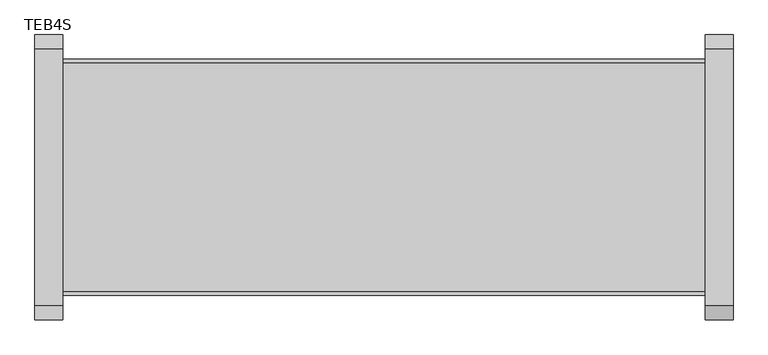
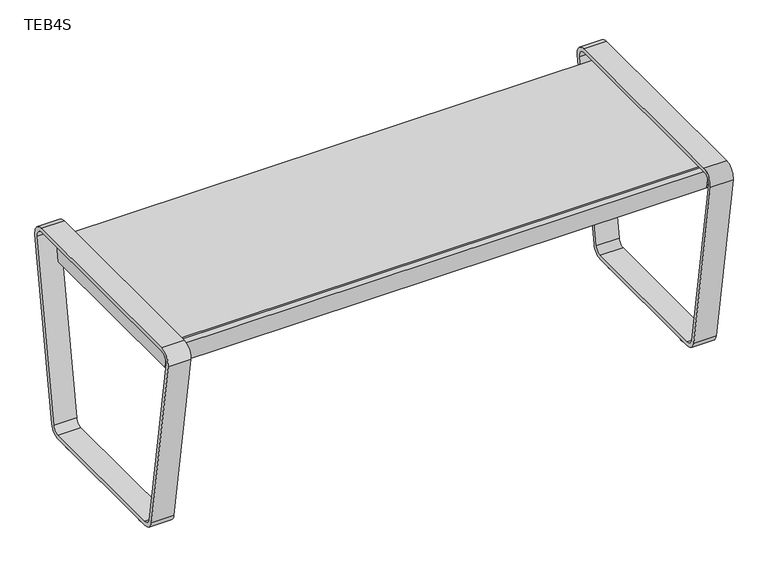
"""IFC4 building model written with IfcOpenShell, lengths in millimetres: furniture geometry, Stance_HC-Terrace-Straight_Bench_Steel : TEB4S."""

from ifc_helpers import new_model, si_unit, point, frame, frame_2d, origin, origin_with_axes, place, context, project, spatial, polyline, circle_curve, trimmed, segment, composite_curve, outline, extrude, source, transform, mapped, element, save


def teb4s_c4fabae1(model_context):
    return source(origin(), model_context, "Body", "SweptSolid", [
        extrude(outline(polyline([(880.26875, -50.90414), (880.26875, -467.25586), (791.36875, -467.25586), (791.36875, -50.90414), (880.26875, -50.90414)])), frame((0.0, 0.0, 432.435), z_axis=(0.0, 0.0, 1.0), x_axis=(1.0, 0.0, 0.0)), (0.0, 0.0, 1.0), 3.175),
        extrude(outline(composite_curve([segment(polyline([(-467.25586, 432.435), (-50.90414, 432.435), (-57.0623598, 397.51)]), True, "CONTINUOUS"), segment(trimmed(circle_curve(frame_2d((-259.08, 1997.8972816)), 1613.0872816), [point((-57.0623598, 397.51))], [point((-461.0976402, 397.51))], False, "CARTESIAN"), True, "CONTINUOUS"), segment(polyline([(-461.0976402, 397.51), (-467.25586, 432.435)]), True, "CONTINUOUS")], self_intersect=False)), frame((833.43115, 0.0, 0.0), z_axis=(1.0, 0.0, 0.0), x_axis=(0.0, 1.0, 0.0)), (0.0, 0.0, 1.0), 4.7752),
        extrude(outline(polyline([(677.8625, -50.90414), (677.8625, -467.25586), (588.9625, -467.25586), (588.9625, -50.90414), (677.8625, -50.90414)])), frame((0.0, 0.0, 432.435), z_axis=(0.0, 0.0, 1.0), x_axis=(1.0, 0.0, 0.0)), (0.0, 0.0, 1.0), 3.175),
        extrude(outline(composite_curve([segment(polyline([(-467.25586, 432.435), (-50.90414, 432.435), (-57.0623598, 397.51)]), True, "CONTINUOUS"), segment(trimmed(circle_curve(frame_2d((-259.08, 1997.8972816)), 1613.0872816), [point((-57.0623598, 397.51))], [point((-461.0976402, 397.51))], False, "CARTESIAN"), True, "CONTINUOUS"), segment(polyline([(-461.0976402, 397.51), (-467.25586, 432.435)]), True, "CONTINUOUS")], self_intersect=False)), frame((631.0249, 0.0, 0.0), z_axis=(1.0, 0.0, 0.0), x_axis=(0.0, 1.0, 0.0)), (0.0, 0.0, 1.0), 4.7752),
        extrude(outline(polyline([(475.45625, -50.90414), (475.45625, -467.25586), (386.55625, -467.25586), (386.55625, -50.90414), (475.45625, -50.90414)])), frame((0.0, 0.0, 432.435), z_axis=(0.0, 0.0, 1.0), x_axis=(1.0, 0.0, 0.0)), (0.0, 0.0, 1.0), 3.175),
        extrude(outline(composite_curve([segment(polyline([(-467.25586, 432.435), (-50.90414, 432.435), (-57.0623598, 397.51)]), True, "CONTINUOUS"), segment(trimmed(circle_curve(frame_2d((-259.08, 1997.8972816)), 1613.0872816), [point((-57.0623598, 397.51))], [point((-461.0976402, 397.51))], False, "CARTESIAN"), True, "CONTINUOUS"), segment(polyline([(-461.0976402, 397.51), (-467.25586, 432.435)]), True, "CONTINUOUS")], self_intersect=False)), frame((428.61865, 0.0, 0.0), z_axis=(1.0, 0.0, 0.0), x_axis=(0.0, 1.0, 0.0)), (0.0, 0.0, 1.0), 4.7752),
        extrude(outline(polyline([(1082.675, -50.90414), (1082.675, -467.25586), (993.775, -467.25586), (993.775, -50.90414), (1082.675, -50.90414)])), frame((0.0, 0.0, 432.435), z_axis=(0.0, 0.0, 1.0), x_axis=(1.0, 0.0, 0.0)), (0.0, 0.0, 1.0), 3.175),
        extrude(outline(composite_curve([segment(polyline([(-467.25586, 432.435), (-50.90414, 432.435), (-57.0623598, 397.51)]), True, "CONTINUOUS"), segment(trimmed(circle_curve(frame_2d((-259.08, 1997.8972816)), 1613.0872816), [point((-57.0623598, 397.51))], [point((-461.0976402, 397.51))], False, "CARTESIAN"), True, "CONTINUOUS"), segment(polyline([(-461.0976402, 397.51), (-467.25586, 432.435)]), True, "CONTINUOUS")], self_intersect=False)), frame((1035.8374, 0.0, 0.0), z_axis=(1.0, 0.0, 0.0), x_axis=(0.0, 1.0, 0.0)), (0.0, 0.0, 1.0), 4.7752),
        extrude(outline(polyline([(273.05, -50.90414), (273.05, -467.25586), (184.15, -467.25586), (184.15, -50.90414), (273.05, -50.90414)])), frame((0.0, 0.0, 432.435), z_axis=(0.0, 0.0, 1.0), x_axis=(1.0, 0.0, 0.0)), (0.0, 0.0, 1.0), 3.175),
        extrude(outline(composite_curve([segment(polyline([(-467.25586, 432.435), (-50.90414, 432.435), (-57.0623598, 397.51)]), True, "CONTINUOUS"), segment(trimmed(circle_curve(frame_2d((-259.08, 1997.8972816)), 1613.0872816), [point((-57.0623598, 397.51))], [point((-461.0976402, 397.51))], False, "CARTESIAN"), True, "CONTINUOUS"), segment(polyline([(-461.0976402, 397.51), (-467.25586, 432.435)]), True, "CONTINUOUS")], self_intersect=False)), frame((226.2124, 0.0, 0.0), z_axis=(1.0, 0.0, 0.0), x_axis=(0.0, 1.0, 0.0)), (0.0, 0.0, 1.0), 4.7752),
        extrude(outline(polyline([(-476.5675, 457.8350949), (-41.5925, 457.8350949), (-52.2294419, 397.51), (-465.9305581, 397.51), (-476.5675, 457.8350949)])), frame((1241.425, 0.0, 0.0), z_axis=(1.0, 0.0, 0.0), x_axis=(0.0, 1.0, 0.0)), (0.0, 0.0, 1.0), 6.35),
        extrude(outline(composite_curve([segment(trimmed(circle_curve(frame_2d((1244.6, -399.75536)), 22.225), [point((1266.825, -399.75536))], [point((1222.375, -399.75536))], False, "CARTESIAN"), True, "CONTINUOUS"), segment(trimmed(circle_curve(frame_2d((1244.6, -399.75536)), 22.225), [point((1222.375, -399.75536))], [point((1266.825, -399.75536))], False, "CARTESIAN"), True, "CONTINUOUS")], self_intersect=False)), origin_with_axes(), (0.0, 0.0, 1.0), 6.35),
        extrude(outline(composite_curve([segment(trimmed(circle_curve(frame_2d((1244.6, -118.40464)), 22.225), [point((1266.825, -118.40464))], [point((1222.375, -118.40464))], False, "CARTESIAN"), True, "CONTINUOUS"), segment(trimmed(circle_curve(frame_2d((1244.6, -118.40464)), 22.225), [point((1222.375, -118.40464))], [point((1266.825, -118.40464))], False, "CARTESIAN"), True, "CONTINUOUS")], self_intersect=False)), origin_with_axes(), (0.0, 0.0, 1.0), 6.35),
        extrude(outline(composite_curve([segment(trimmed(circle_curve(frame_2d((-90.0611198, 31.75)), 25.4000949), [point((-64.9737422, 27.7765497))], [point((-90.0611198, 6.3499051))], False, "CARTESIAN"), True, "CONTINUOUS"), segment(polyline([(-90.0611198, 6.3499051), (-428.0988802, 6.3499051)]), True, "CONTINUOUS"), segment(trimmed(circle_curve(frame_2d((-428.0988802, 31.75)), 25.4000949), [point((-428.0988802, 6.3499051))], [point((-453.1862578, 27.7765497))], False, "CARTESIAN"), True, "CONTINUOUS"), segment(polyline([(-453.1862578, 27.7765497), (-518.157139, 437.9865497)]), True, "CONTINUOUS"), segment(trimmed(circle_curve(frame_2d((-493.0697614, 441.96)), 25.4000949), [point((-518.157139, 437.9865497))], [point((-493.0697614, 467.3600949))], False, "CARTESIAN"), True, "CONTINUOUS"), segment(polyline([(-493.0697614, 467.3600949), (-25.0902386, 467.3600949)]), True, "CONTINUOUS"), segment(trimmed(circle_curve(frame_2d((-25.0902386, 441.96)), 25.4000949), [point((-25.0902386, 467.3600949))], [point((-0.002861, 437.9865497))], False, "CARTESIAN"), True, "CONTINUOUS"), segment(polyline([(-0.002861, 437.9865497), (-64.9737422, 27.7765497)]), True, "CONTINUOUS")], self_intersect=False), holes=[composite_curve([segment(trimmed(circle_curve(frame_2d((-493.0697614, 441.96)), 15.8750949), [point((-493.0697614, 457.8350949))], [point((-508.7494076, 439.476588))], True, "CARTESIAN"), True, "CONTINUOUS"), segment(polyline([(-508.7494076, 439.476588), (-443.7785263, 29.266588)]), True, "CONTINUOUS"), segment(trimmed(circle_curve(frame_2d((-428.0988802, 31.75)), 15.8750949), [point((-443.7785263, 29.266588))], [point((-428.0988802, 15.8749051))], True, "CARTESIAN"), True, "CONTINUOUS"), segment(polyline([(-428.0988802, 15.8749051), (-90.0611198, 15.8749051)]), True, "CONTINUOUS"), segment(trimmed(circle_curve(frame_2d((-90.0611198, 31.75)), 15.8750949), [point((-90.0611198, 15.8749051))], [point((-74.3814737, 29.266588))], True, "CARTESIAN"), True, "CONTINUOUS"), segment(polyline([(-74.3814737, 29.266588), (-9.4105924, 439.476588)]), True, "CONTINUOUS"), segment(trimmed(circle_curve(frame_2d((-25.0902386, 441.96)), 15.8750949), [point((-9.4105924, 439.476588))], [point((-25.0902386, 457.8350949))], True, "CARTESIAN"), True, "CONTINUOUS"), segment(polyline([(-25.0902386, 457.8350949), (-493.0697614, 457.8350949)]), True, "CONTINUOUS")], self_intersect=False)]), frame((1219.2, 0.0, 0.0), z_axis=(1.0, 0.0, 0.0), x_axis=(0.0, 1.0, 0.0)), (0.0, 0.0, 1.0), 50.8),
        extrude(outline(polyline([(-476.5675, 457.8350949), (-41.5925, 457.8350949), (-52.2294419, 397.51), (-465.9305581, 397.51), (-476.5675, 457.8350949)])), frame((22.225, 0.0, 0.0), z_axis=(1.0, 0.0, 0.0), x_axis=(0.0, 1.0, 0.0)), (0.0, 0.0, 1.0), 6.35),
        extrude(outline(composite_curve([segment(trimmed(circle_curve(frame_2d((25.4, -399.75536)), 22.225), [point((3.175, -399.75536))], [point((47.625, -399.75536))], False, "CARTESIAN"), True, "CONTINUOUS"), segment(trimmed(circle_curve(frame_2d((25.4, -399.75536)), 22.225), [point((47.625, -399.75536))], [point((3.175, -399.75536))], False, "CARTESIAN"), True, "CONTINUOUS")], self_intersect=False)), origin_with_axes(), (0.0, 0.0, 1.0), 6.35),
        extrude(outline(composite_curve([segment(trimmed(circle_curve(frame_2d((25.4, -118.40464)), 22.225), [point((3.175, -118.40464))], [point((47.625, -118.40464))], False, "CARTESIAN"), True, "CONTINUOUS"), segment(trimmed(circle_curve(frame_2d((25.4, -118.40464)), 22.225), [point((47.625, -118.40464))], [point((3.175, -118.40464))], False, "CARTESIAN"), True, "CONTINUOUS")], self_intersect=False)), origin_with_axes(), (0.0, 0.0, 1.0), 6.35),
        extrude(outline(composite_curve([segment(polyline([(-493.0697614, 467.3600949), (-25.0902386, 467.3600949)]), True, "CONTINUOUS"), segment(trimmed(circle_curve(frame_2d((-25.0902386, 441.96)), 25.4000949), [point((-25.0902386, 467.3600949))], [point((-0.002861, 437.9865497))], False, "CARTESIAN"), True, "CONTINUOUS"), segment(polyline([(-0.002861, 437.9865497), (-64.9737422, 27.7765497)]), True, "CONTINUOUS"), segment(trimmed(circle_curve(frame_2d((-90.0611198, 31.75)), 25.4000949), [point((-64.9737422, 27.7765497))], [point((-90.0611198, 6.3499051))], False, "CARTESIAN"), True, "CONTINUOUS"), segment(polyline([(-90.0611198, 6.3499051), (-428.0988802, 6.3499051)]), True, "CONTINUOUS"), segment(trimmed(circle_curve(frame_2d((-428.0988802, 31.75)), 25.4000949), [point((-428.0988802, 6.3499051))], [point((-453.1862578, 27.7765497))], False, "CARTESIAN"), True, "CONTINUOUS"), segment(polyline([(-453.1862578, 27.7765497), (-518.157139, 437.9865497)]), True, "CONTINUOUS"), segment(trimmed(circle_curve(frame_2d((-493.0697614, 441.96)), 25.4000949), [point((-518.157139, 437.9865497))], [point((-493.0697614, 467.3600949))], False, "CARTESIAN"), True, "CONTINUOUS")], self_intersect=False), holes=[composite_curve([segment(polyline([(-74.3814737, 29.266588), (-9.4105924, 439.476588)]), True, "CONTINUOUS"), segment(trimmed(circle_curve(frame_2d((-25.0902386, 441.96)), 15.8750949), [point((-9.4105924, 439.476588))], [point((-25.0902386, 457.8350949))], True, "CARTESIAN"), True, "CONTINUOUS"), segment(polyline([(-25.0902386, 457.8350949), (-493.0697614, 457.8350949)]), True, "CONTINUOUS"), segment(trimmed(circle_curve(frame_2d((-493.0697614, 441.96)), 15.8750949), [point((-493.0697614, 457.8350949))], [point((-508.7494076, 439.476588))], True, "CARTESIAN"), True, "CONTINUOUS"), segment(polyline([(-508.7494076, 439.476588), (-443.7785263, 29.266588)]), True, "CONTINUOUS"), segment(trimmed(circle_curve(frame_2d((-428.0988802, 31.75)), 15.8750949), [point((-443.7785263, 29.266588))], [point((-428.0988802, 15.8749051))], True, "CARTESIAN"), True, "CONTINUOUS"), segment(polyline([(-428.0988802, 15.8749051), (-90.0611198, 15.8749051)]), True, "CONTINUOUS"), segment(trimmed(circle_curve(frame_2d((-90.0611198, 31.75)), 15.8750949), [point((-90.0611198, 15.8749051))], [point((-74.3814737, 29.266588))], True, "CARTESIAN"), True, "CONTINUOUS")], self_intersect=False)]), frame((0.0, 0.0, 0.0), z_axis=(1.0, 0.0, 0.0), x_axis=(0.0, 1.0, 0.0)), (0.0, 0.0, 1.0), 50.8),
        extrude(outline(polyline([(1241.425, -51.1175), (1241.425, -467.0425), (28.575, -467.0425), (28.575, -51.1175), (1241.425, -51.1175)])), frame((0.0, 0.0, 451.485), z_axis=(0.0, 0.0, 1.0), x_axis=(1.0, 0.0, 0.0)), (0.0, 0.0, 1.0), 3.175),
        extrude(outline(polyline([(-57.0610609, 397.510164), (-461.0989391, 397.510164), (-467.2574614, 432.4368793), (-50.9025386, 432.4368793), (-57.0610609, 397.510164)])), frame((1236.6625, 0.0, 0.0), z_axis=(1.0, 0.0, 0.0), x_axis=(0.0, 1.0, 0.0)), (0.0, 0.0, 1.0), 4.7625),
        extrude(outline(polyline([(-57.0610609, 397.510164), (-461.0989391, 397.510164), (-467.2574614, 432.4368793), (-50.9025386, 432.4368793), (-57.0610609, 397.510164)])), frame((28.575, 0.0, 0.0), z_axis=(1.0, 0.0, 0.0), x_axis=(0.0, 1.0, 0.0)), (0.0, 0.0, 1.0), 4.7625),
        extrude(outline(polyline([(-474.3310721, 445.1343772), (-448.9310721, 445.1343772), (-448.9310721, 440.3718772), (-468.6553456, 440.3718772), (-461.0976402, 397.51), (-465.7877871, 396.6830006), (-474.3310721, 445.1343772)])), frame((28.575, 0.0, 0.0), z_axis=(1.0, 0.0, 0.0), x_axis=(0.0, 1.0, 0.0)), (0.0, 0.0, 1.0), 1212.85),
        extrude(outline(polyline([(-43.8289279, 445.1343772), (-52.3722129, 396.6830006), (-57.0623598, 397.51), (-49.5046544, 440.3718772), (-69.2289279, 440.3718772), (-69.2289279, 445.1343772), (-43.8289279, 445.1343772)])), frame((28.575, 0.0, 0.0), z_axis=(1.0, 0.0, 0.0), x_axis=(0.0, 1.0, 0.0)), (0.0, 0.0, 1.0), 1212.85),
    ])


if __name__ == "__main__":
    model = new_model("IFC4")
    model_context = context("Model", 3, world=origin())
    ifc_project = project(units=[si_unit("LENGTHUNIT", "METRE", prefix="MILLI")], contexts=[model_context])
    site = spatial("IfcSite", under=ifc_project)
    building = spatial("IfcBuilding", under=site)
    placement = place(None, origin())
    teb4s_shape = teb4s_c4fabae1(model_context)
    element("IfcFurniture", 1, ObjectType="Stance_HC-Terrace-Straight_Bench_Steel : TEB4S", at=placement, inside=building, context=model_context, shape_type="MappedRepresentation", body=[
        mapped(teb4s_shape, transform((0.0, 0.0, 0.0), x_axis=(1.0, 0.0, 0.0), y_axis=(0.0, 1.0, 0.0), z_axis=(0.0, 0.0, 1.0))),
    ])
    save(model, "model.ifc")
